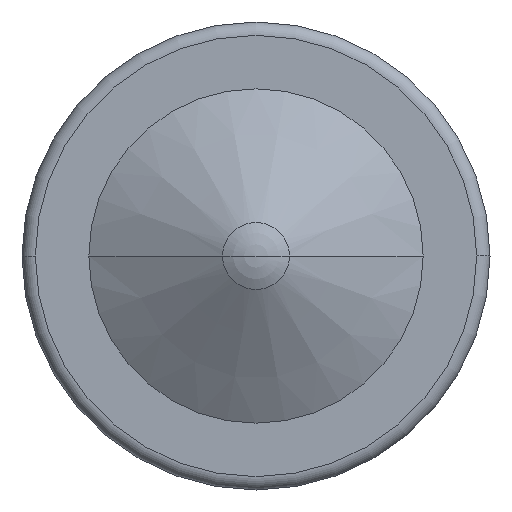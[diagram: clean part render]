
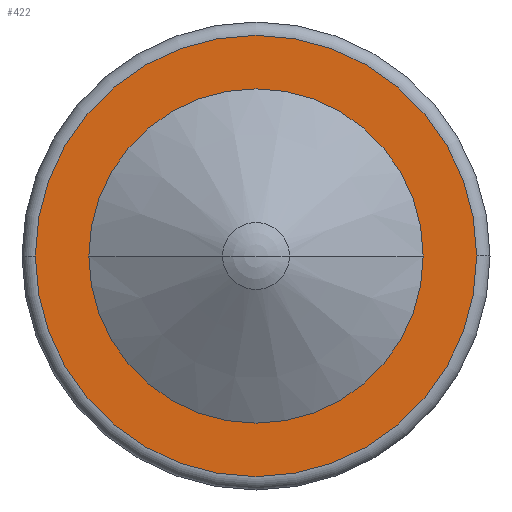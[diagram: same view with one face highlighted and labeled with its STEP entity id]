
A CAD part, front view. The second image highlights one B-rep face of the part: STEP entity #422.
In plain terms, the highlighted planar face has unit normal (0, -1, 0).
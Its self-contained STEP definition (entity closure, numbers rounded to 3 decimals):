
#115=CARTESIAN_POINT('',(0.,-13.5,0.));
#116=DIRECTION('',(0.,1.,0.));
#117=DIRECTION('',(1.,0.,0.));
#118=AXIS2_PLACEMENT_3D('',#115,#116,#117);
#120=CARTESIAN_POINT('',(0.,-13.5,0.));
#121=DIRECTION('',(0.,-1.,0.));
#122=DIRECTION('',(1.,0.,0.));
#123=AXIS2_PLACEMENT_3D('',#120,#121,#122);
#125=CARTESIAN_POINT('',(0.,-13.5,0.));
#126=DIRECTION('',(0.,1.,0.));
#127=DIRECTION('',(1.,0.,0.));
#128=AXIS2_PLACEMENT_3D('',#125,#126,#127);
#130=CARTESIAN_POINT('',(0.,-13.5,0.));
#131=DIRECTION('',(0.,1.,0.));
#132=DIRECTION('',(-1.,0.,0.));
#133=AXIS2_PLACEMENT_3D('',#130,#131,#132);
#195=CARTESIAN_POINT('',(1.25,-13.5,0.));
#196=VERTEX_POINT('',#195);
#207=CARTESIAN_POINT('',(-1.25,-13.5,0.));
#208=VERTEX_POINT('',#207);
#213=CARTESIAN_POINT('',(1.65,-13.5,0.));
#214=CARTESIAN_POINT('',(-1.65,-13.5,0.));
#215=VERTEX_POINT('',#213);
#216=VERTEX_POINT('',#214);
#407=CARTESIAN_POINT('',(0.,-13.5,0.));
#408=DIRECTION('',(0.,1.,0.));
#409=DIRECTION('',(1.,0.,0.));
#410=AXIS2_PLACEMENT_3D('',#407,#408,#409);
#411=PLANE('',#410);
#412=ORIENTED_EDGE('',*,*,#387,.T.);
#413=ORIENTED_EDGE('',*,*,#401,.T.);
#414=EDGE_LOOP('',(#412,#413));
#415=FACE_OUTER_BOUND('',#414,.F.);
#417=ORIENTED_EDGE('',*,*,#416,.F.);
#419=ORIENTED_EDGE('',*,*,#418,.T.);
#420=EDGE_LOOP('',(#417,#419));
#421=FACE_BOUND('',#420,.F.);
#119=CIRCLE('',#118,1.25);
#124=CIRCLE('',#123,1.25);
#129=CIRCLE('',#128,1.65);
#134=CIRCLE('',#133,1.65);
#387=EDGE_CURVE('',#215,#216,#129,.T.);
#401=EDGE_CURVE('',#216,#215,#134,.T.);
#416=EDGE_CURVE('',#196,#208,#119,.T.);
#418=EDGE_CURVE('',#196,#208,#124,.T.);
#422=ADVANCED_FACE('',(#415,#421),#411,.F.);
